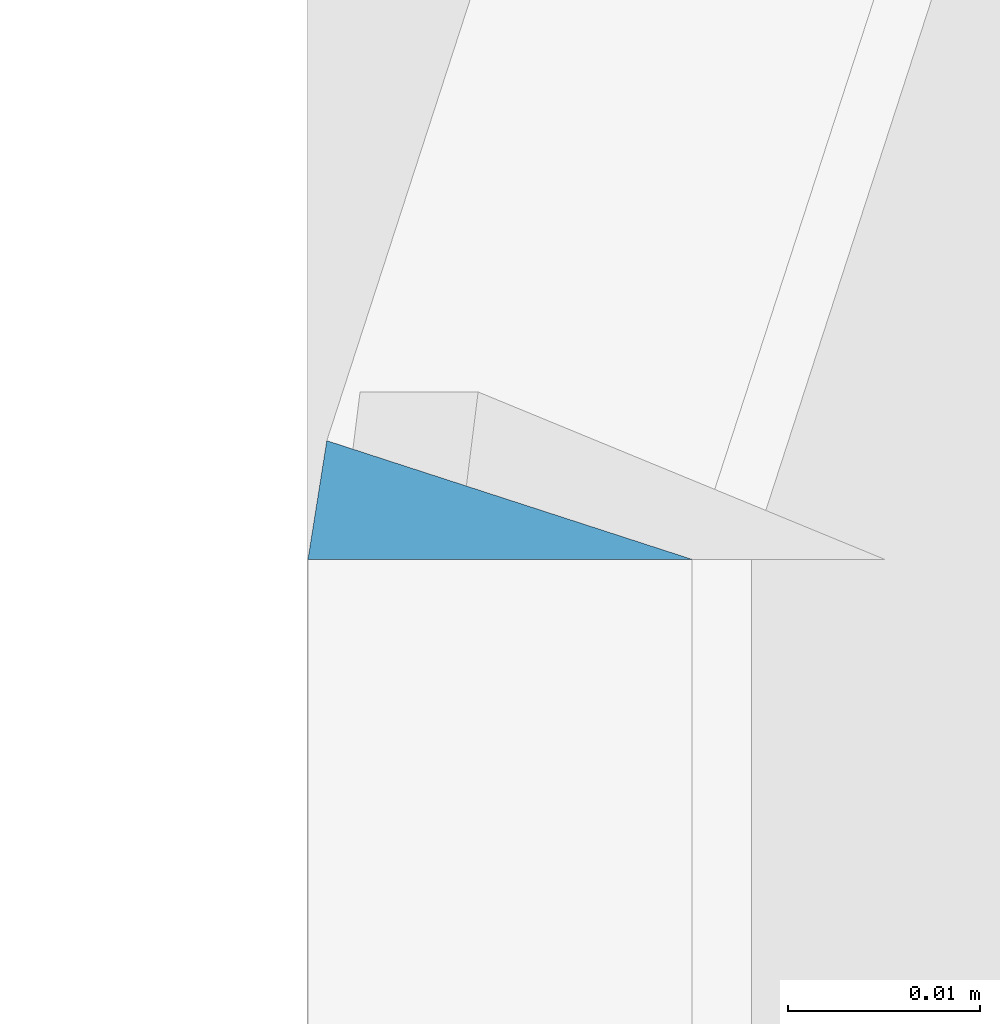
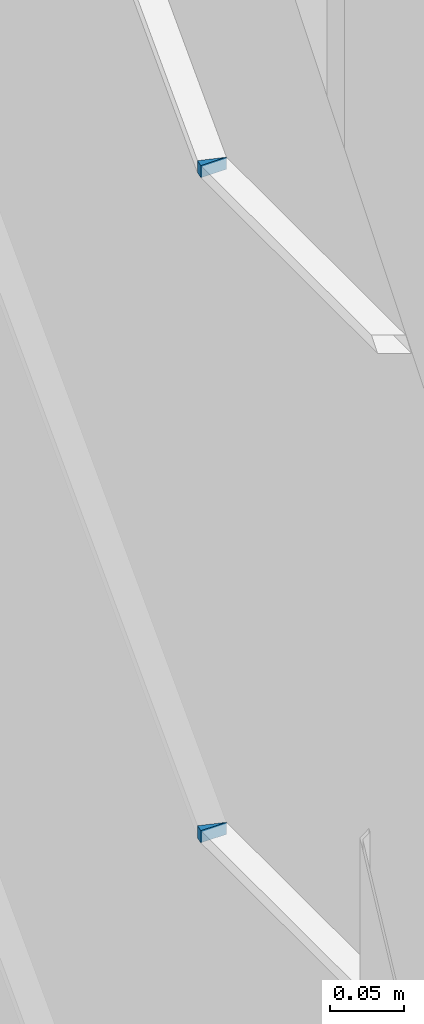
# One storey, part 319 of 583: 2 slabs.
"""IFC2X3 building model written with IfcOpenShell, lengths in metres."""

from ifc_helpers import new_model, entity, si_unit, converted_unit, derived_unit, money_unit, direction, frame, origin_with_axes, place, context, subcontext, project, spatial, faceted_brep, material, type_object, element, save


model = new_model("IFC2X3")

# Units and contexts
model_context = context("Model", 3, precision=1e-05, world=origin_with_axes(), true_north=direction((0.0, 1.0)))
body_context = subcontext(model_context, "Body", "Model", "MODEL_VIEW", scale=1.0)
ifc_project = project(units=[si_unit("LENGTHUNIT", "METRE"), si_unit("AREAUNIT", "SQUARE_METRE"), si_unit("VOLUMEUNIT", "CUBIC_METRE"), si_unit("ABSORBEDDOSEUNIT", "GRAY"), si_unit("AMOUNTOFSUBSTANCEUNIT", "MOLE"), si_unit("DOSEEQUIVALENTUNIT", "SIEVERT"), si_unit("ELECTRICCAPACITANCEUNIT", "FARAD"), si_unit("ELECTRICCHARGEUNIT", "COULOMB"), si_unit("ELECTRICCONDUCTANCEUNIT", "SIEMENS"), si_unit("ELECTRICCURRENTUNIT", "AMPERE"), si_unit("ELECTRICRESISTANCEUNIT", "OHM"), si_unit("ELECTRICVOLTAGEUNIT", "VOLT"), si_unit("ENERGYUNIT", "JOULE"), si_unit("FORCEUNIT", "NEWTON"), si_unit("FREQUENCYUNIT", "HERTZ"), si_unit("ILLUMINANCEUNIT", "LUX"), si_unit("INDUCTANCEUNIT", "HENRY"), si_unit("LUMINOUSFLUXUNIT", "LUMEN"), si_unit("LUMINOUSINTENSITYUNIT", "CANDELA"), si_unit("MAGNETICFLUXDENSITYUNIT", "TESLA"), si_unit("MAGNETICFLUXUNIT", "WEBER"), si_unit("MASSUNIT", "GRAM"), converted_unit("PLANEANGLEUNIT", "degree", entity("IfcReal", 0.0174532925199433), si_unit("PLANEANGLEUNIT", "RADIAN"), dimensions=[0, 0, 0, 0, 0, 0, 0]), si_unit("POWERUNIT", "WATT"), si_unit("PRESSUREUNIT", "PASCAL"), si_unit("RADIOACTIVITYUNIT", "BECQUEREL"), si_unit("SOLIDANGLEUNIT", "STERADIAN"), si_unit("THERMODYNAMICTEMPERATUREUNIT", "KELVIN"), si_unit("TIMEUNIT", "SECOND"), derived_unit("ACCELERATIONUNIT", [(si_unit("LENGTHUNIT", "METRE"), 1), (si_unit("TIMEUNIT", "SECOND"), -2)]), derived_unit("ANGULARVELOCITYUNIT", [(converted_unit("PLANEANGLEUNIT", "degree", entity("IfcReal", 0.0174532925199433), si_unit("PLANEANGLEUNIT", "RADIAN"), dimensions=[0, 0, 0, 0, 0, 0, 0]), 1), (si_unit("TIMEUNIT", "SECOND"), -1)]), derived_unit("CURVATUREUNIT", [(converted_unit("PLANEANGLEUNIT", "degree", entity("IfcReal", 0.0174532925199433), si_unit("PLANEANGLEUNIT", "RADIAN"), dimensions=[0, 0, 0, 0, 0, 0, 0]), 1), (si_unit("LENGTHUNIT", "METRE"), -1)]), derived_unit("DYNAMICVISCOSITYUNIT", [(si_unit("PRESSUREUNIT", "PASCAL"), 1), (si_unit("TIMEUNIT", "SECOND"), 1)]), derived_unit("HEATFLUXDENSITYUNIT", [(si_unit("POWERUNIT", "WATT"), 1), (si_unit("LENGTHUNIT", "METRE"), -2)]), derived_unit("HEATINGVALUEUNIT", [(si_unit("ENERGYUNIT", "JOULE"), 1), (si_unit("MASSUNIT", "GRAM"), -1)]), derived_unit("INTEGERCOUNTRATEUNIT", [(si_unit("TIMEUNIT", "SECOND"), -1)]), derived_unit("IONCONCENTRATIONUNIT", [(si_unit("MASSUNIT", "GRAM"), 1), (si_unit("VOLUMEUNIT", "CUBIC_METRE"), -1)]), derived_unit("ISOTHERMALMOISTURECAPACITYUNIT", [(si_unit("VOLUMEUNIT", "CUBIC_METRE"), 1), (si_unit("MASSUNIT", "GRAM"), -1)]), derived_unit("KINEMATICVISCOSITYUNIT", [(si_unit("AREAUNIT", "SQUARE_METRE"), 1), (si_unit("TIMEUNIT", "SECOND"), -1)]), derived_unit("LINEARFORCEUNIT", [(si_unit("FORCEUNIT", "NEWTON"), 1), (si_unit("LENGTHUNIT", "METRE"), -1)]), derived_unit("LINEARMOMENTUNIT", [(si_unit("FORCEUNIT", "NEWTON"), 1), (si_unit("LENGTHUNIT", "METRE"), -1)]), derived_unit("LINEARSTIFFNESSUNIT", [(si_unit("FORCEUNIT", "NEWTON"), 1), (si_unit("LENGTHUNIT", "METRE"), -1)]), derived_unit("LINEARVELOCITYUNIT", [(si_unit("LENGTHUNIT", "METRE"), 1), (si_unit("TIMEUNIT", "SECOND"), -1)]), derived_unit("LUMINOUSINTENSITYDISTRIBUTIONUNIT", [(si_unit("LUMINOUSINTENSITYUNIT", "CANDELA"), 1), (si_unit("LUMINOUSFLUXUNIT", "LUMEN"), -1)]), derived_unit("MASSDENSITYUNIT", [(si_unit("MASSUNIT", "GRAM"), 1), (si_unit("VOLUMEUNIT", "CUBIC_METRE"), -1)]), derived_unit("MASSFLOWRATEUNIT", [(si_unit("MASSUNIT", "GRAM"), 1), (si_unit("TIMEUNIT", "SECOND"), -1)]), derived_unit("MASSPERLENGTHUNIT", [(si_unit("MASSUNIT", "GRAM"), 1), (si_unit("LENGTHUNIT", "METRE"), -1)]), derived_unit("MODULUSOFELASTICITYUNIT", [(si_unit("FORCEUNIT", "NEWTON"), 1), (si_unit("AREAUNIT", "SQUARE_METRE"), -1)]), derived_unit("MODULUSOFLINEARSUBGRADEREACTIONUNIT", [(si_unit("FORCEUNIT", "NEWTON"), 1), (si_unit("LENGTHUNIT", "METRE"), -2)]), derived_unit("MODULUSOFROTATIONALSUBGRADEREACTIONUNIT", [(si_unit("FORCEUNIT", "NEWTON"), 1), (si_unit("LENGTHUNIT", "METRE"), 1)]), derived_unit("MODULUSOFSUBGRADEREACTIONUNIT", [(si_unit("FORCEUNIT", "NEWTON"), 1), (si_unit("VOLUMEUNIT", "CUBIC_METRE"), -1)]), derived_unit("MOISTUREDIFFUSIVITYUNIT", [(si_unit("VOLUMEUNIT", "CUBIC_METRE"), 1), (si_unit("TIMEUNIT", "SECOND"), -1)]), derived_unit("MOLECULARWEIGHTUNIT", [(si_unit("MASSUNIT", "GRAM"), 1), (si_unit("AMOUNTOFSUBSTANCEUNIT", "MOLE"), -1)]), derived_unit("PLANARFORCEUNIT", [(si_unit("FORCEUNIT", "NEWTON"), 1), (si_unit("LENGTHUNIT", "METRE"), -2)]), derived_unit("ROTATIONALFREQUENCYUNIT", [(si_unit("TIMEUNIT", "SECOND"), -1)]), derived_unit("ROTATIONALMASSUNIT", [(si_unit("MASSUNIT", "GRAM"), 1), (si_unit("LENGTHUNIT", "METRE"), 2)]), derived_unit("ROTATIONALSTIFFNESSUNIT", [(si_unit("FORCEUNIT", "NEWTON"), 1), (si_unit("LENGTHUNIT", "METRE"), 1), (converted_unit("PLANEANGLEUNIT", "degree", entity("IfcReal", 0.0174532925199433), si_unit("PLANEANGLEUNIT", "RADIAN"), dimensions=[0, 0, 0, 0, 0, 0, 0]), -1)]), derived_unit("SECTIONAREAINTEGRALUNIT", [(si_unit("LENGTHUNIT", "METRE"), 5)]), derived_unit("SECTIONMODULUSUNIT", [(si_unit("LENGTHUNIT", "METRE"), 3)]), derived_unit("SHEARMODULUSUNIT", [(si_unit("FORCEUNIT", "NEWTON"), 1), (si_unit("AREAUNIT", "SQUARE_METRE"), -1)]), derived_unit("SOUNDPOWERUNIT", [(si_unit("ENERGYUNIT", "JOULE"), 1), (si_unit("TIMEUNIT", "SECOND"), -1)]), derived_unit("SPECIFICHEATCAPACITYUNIT", [(si_unit("FORCEUNIT", "NEWTON"), 1), (si_unit("MASSUNIT", "GRAM"), -1), (si_unit("THERMODYNAMICTEMPERATUREUNIT", "KELVIN"), -1)]), derived_unit("TEMPERATUREGRADIENTUNIT", [(si_unit("THERMODYNAMICTEMPERATUREUNIT", "KELVIN"), 1), (si_unit("LENGTHUNIT", "METRE"), -1)]), derived_unit("THERMALADMITTANCEUNIT", [(si_unit("POWERUNIT", "WATT"), 1), (si_unit("AREAUNIT", "SQUARE_METRE"), -1), (si_unit("THERMODYNAMICTEMPERATUREUNIT", "KELVIN"), -1)]), derived_unit("THERMALCONDUCTANCEUNIT", [(si_unit("POWERUNIT", "WATT"), 1), (si_unit("LENGTHUNIT", "METRE"), -1), (si_unit("THERMODYNAMICTEMPERATUREUNIT", "KELVIN"), -1)]), derived_unit("THERMALEXPANSIONCOEFFICIENTUNIT", [(si_unit("THERMODYNAMICTEMPERATUREUNIT", "KELVIN"), -1)]), derived_unit("THERMALRESISTANCEUNIT", [(si_unit("AREAUNIT", "SQUARE_METRE"), 1), (si_unit("POWERUNIT", "WATT"), -1)]), derived_unit("THERMALTRANSMITTANCEUNIT", [(si_unit("POWERUNIT", "WATT"), 1), (si_unit("AREAUNIT", "SQUARE_METRE"), -1), (si_unit("THERMODYNAMICTEMPERATUREUNIT", "KELVIN"), -1)]), derived_unit("TORQUEUNIT", [(si_unit("FORCEUNIT", "NEWTON"), 1), (si_unit("LENGTHUNIT", "METRE"), 1)]), derived_unit("VAPORPERMEABILITYUNIT", [(si_unit("MASSUNIT", "GRAM"), 1), (si_unit("TIMEUNIT", "SECOND"), -1)]), derived_unit("VOLUMETRICFLOWRATEUNIT", [(si_unit("VOLUMEUNIT", "CUBIC_METRE"), 1), (si_unit("TIMEUNIT", "SECOND"), -1)]), derived_unit("WARPINGCONSTANTUNIT", [(si_unit("LENGTHUNIT", "METRE"), 6)]), derived_unit("WARPINGMOMENTUNIT", [(si_unit("FORCEUNIT", "NEWTON"), 1), (si_unit("LENGTHUNIT", "METRE"), 2)]), money_unit("GBP")], contexts=[model_context])

# Site, building, storey
site_placement = place(None, origin_with_axes())
site = spatial("IfcSite", under=ifc_project, at=site_placement, Name="Site", CompositionType="ELEMENT")
building_placement = place(site_placement, origin_with_axes())
building = spatial("IfcBuilding", under=site, at=building_placement, Name="Building01", CompositionType="ELEMENT")
storey_placement = place(building_placement, frame((0.0, 0.0, 20.78), z_axis=(0.0, 0.0, 1.0), x_axis=(1.0, 0.0, 0.0)))
storey = spatial("IfcBuildingStorey", under=building, at=storey_placement, Name="RL", CompositionType="ELEMENT", Elevation=20.78)

# Slabs
ifc_material = material(Name="A_BSUK_Roofs")
slab_type = type_object("IfcSlabType", Name="A-FloorsSlabs A_BSUK_Slabs", PredefinedType="FLOOR")
for number, where, z_axis, x_axis, name in (
    (1, (0.500979, 16.280608, 4.760024), (0.0, 1.0, 0.0), (0.0, 0.0, 1.0), "A-FloorsSlabs A_BSUK_Slabs"),
    (2, (0.500979, 16.280608, 5.307524), (0.0, 1.0, 0.0), (0.0, 0.0, 1.0), "A-FloorsSlabs A_BSUK_Slabs"),
):
    element("IfcSlab", number, at=place(storey_placement, frame(where, z_axis=z_axis, x_axis=x_axis)), inside=storey, type_object=slab_type, material=ifc_material, Name=name, ObjectType="A-FloorsSlabs A_BSUK_Slabs", context=body_context, shape_type="Brep", body=[
        faceted_brep([(0.0, -0.000979, -0.00618), (0.01, -0.000979, -0.00618), (0.01, 0.0, 0.0), (0.0, 0.0, 0.0), (0.0, 0.019021, -0.00618), (0.01, 0.019021, -0.00618)], [[[0, 1, 2, 3]], [[4, 5, 1, 0]], [[3, 2, 5, 4]], [[1, 5, 2]], [[3, 4, 0]]]),
    ])

save(model, "model.ifc")
